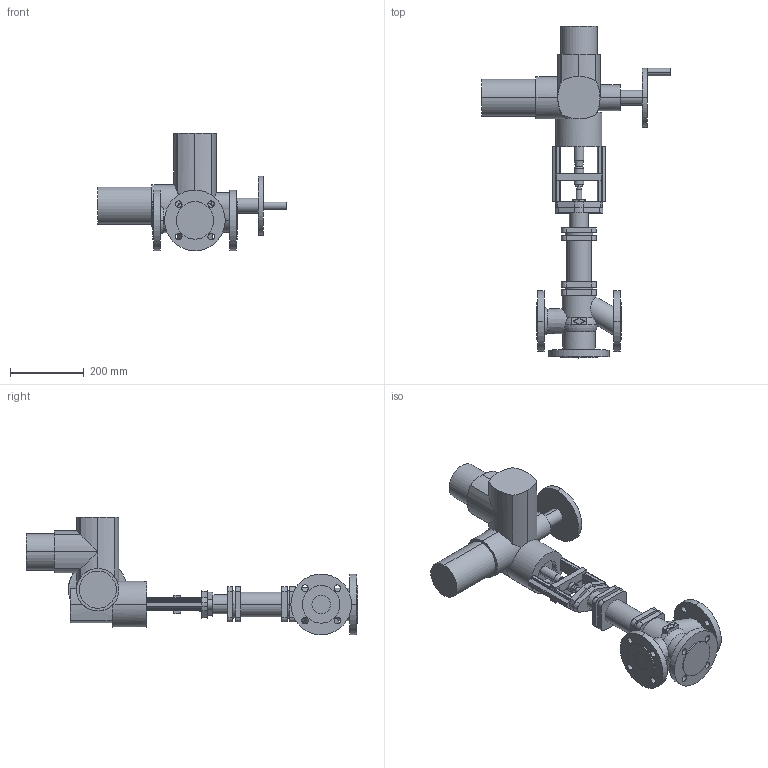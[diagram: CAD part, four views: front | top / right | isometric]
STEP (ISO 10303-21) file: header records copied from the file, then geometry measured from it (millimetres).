
FILE_DESCRIPTION(('OneSpaceDesigner STEP Export'),'2;1');
FILE_NAME('c000003220.stp','2007-01-25T12:05:16',(''),(''),'OneSpace Designer STEP processor for AP214 (Solid Model)','OneSpace Designer 14.00B 27-May-2006 (C) CoCreate Software GmbH','');
FILE_SCHEMA(('AUTOMOTIVE_DESIGN { 1 0 10303 214 1 1 1 1 }'));
Length unit declared in the file: millimetre
Products named in the file (2): 1; 2
Bounding box: 514 x 902.5 x 319.5 mm (x, y, z)
Volume: 12362993 mm3; surface area: 772539.8 mm2
Topology: 2 solids, 2 shells, 323 faces, 830 edges, 534 vertices
Faces by surface type: cylinder 162, plane 147, cone 8, torus 6
Entity records: 9703 total; most frequent: CARTESIAN_POINT 2273, ORIENTED_EDGE 1660, DIRECTION 1396, EDGE_CURVE 830, VERTEX_POINT 534, AXIS2_PLACEMENT_3D 473, VECTOR 450, LINE 450
